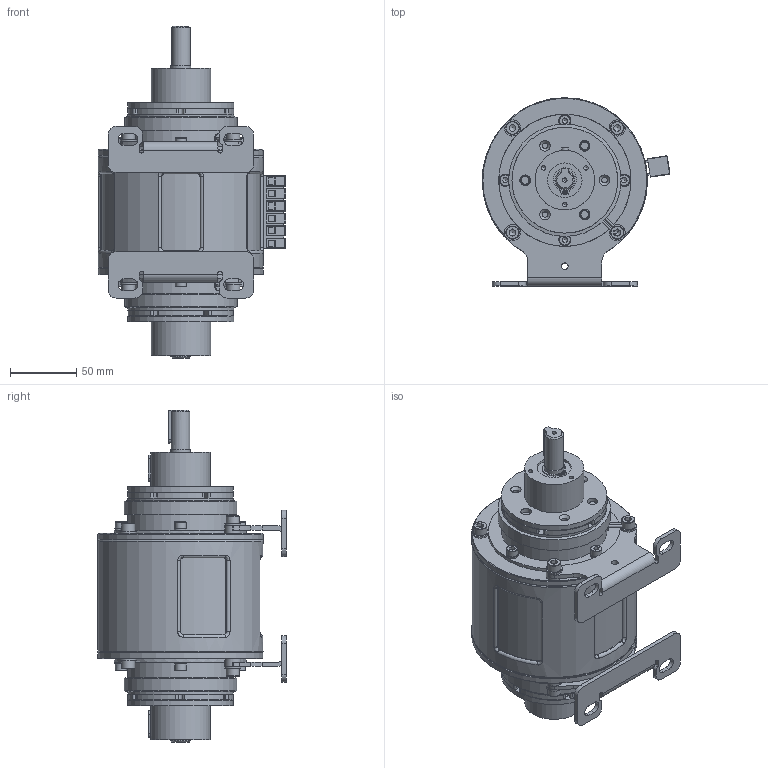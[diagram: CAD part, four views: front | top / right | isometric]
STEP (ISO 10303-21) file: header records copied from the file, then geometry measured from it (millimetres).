
FILE_DESCRIPTION (( 'STEP AP203' ), '1' );
FILE_NAME ('S-M10-A31.STEP', '2023-02-18T08:13:28', ( '' ), ( '' ), 'SwSTEP 2.0', 'SolidWorks 2015', '' );
FILE_SCHEMA (( 'CONFIG_CONTROL_DESIGN' ));
Length unit declared in the file: millimetre
Products named in the file (1): S-M10-A31
Bounding box: 141.88 x 142.5 x 251.2 mm (x, y, z)
Volume: 1646730.5 mm3; surface area: 175953.7 mm2
Topology: 4 solids, 6 shells, 1298 faces, 3223 edges, 2036 vertices
Faces by surface type: plane 712, cylinder 424, torus 88, cone 62, bspline 12
Full cylindrical faces by diameter (mm): 1.7 x4, 2 x4, 3 x6, 3.3 x8, 3.4 x3, 3.8 x12, 4.1 x6, 5 x12, 6 x25, 6.5 x4, 7 x10, 8 x14, 8.5 x8, 10 x8, 12 x4, 14 x1, 15 x2, 26 x2, 45 x8, 48 x2, 52 x2, 72 x4, 80 x6, 80.5 x2, 85 x2, 100 x2, 125 x3
Entity records: 37148 total; most frequent: CARTESIAN_POINT 7407, DIRECTION 6517, ORIENTED_EDGE 5576, EDGE_CURVE 2788, AXIS2_PLACEMENT_3D 2499, VERTEX_POINT 1885, EDGE_LOOP 1747, FACE_OUTER_BOUND 1520
